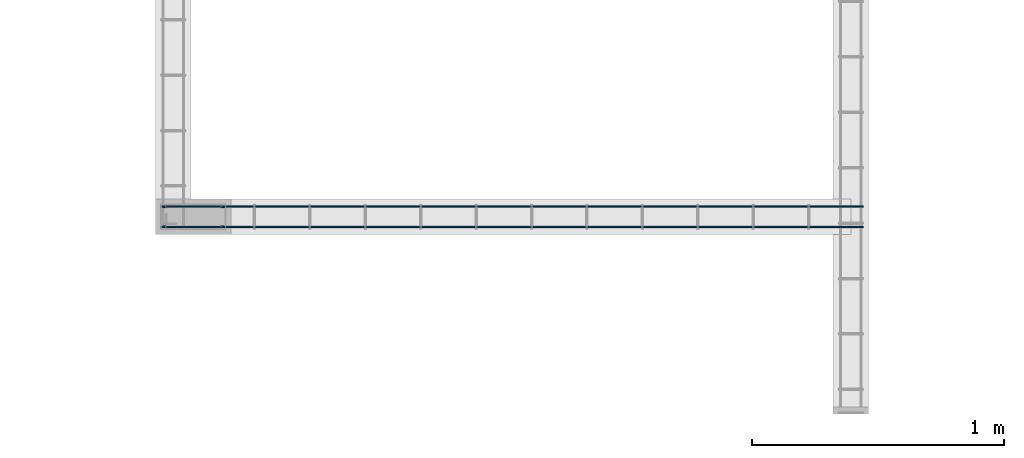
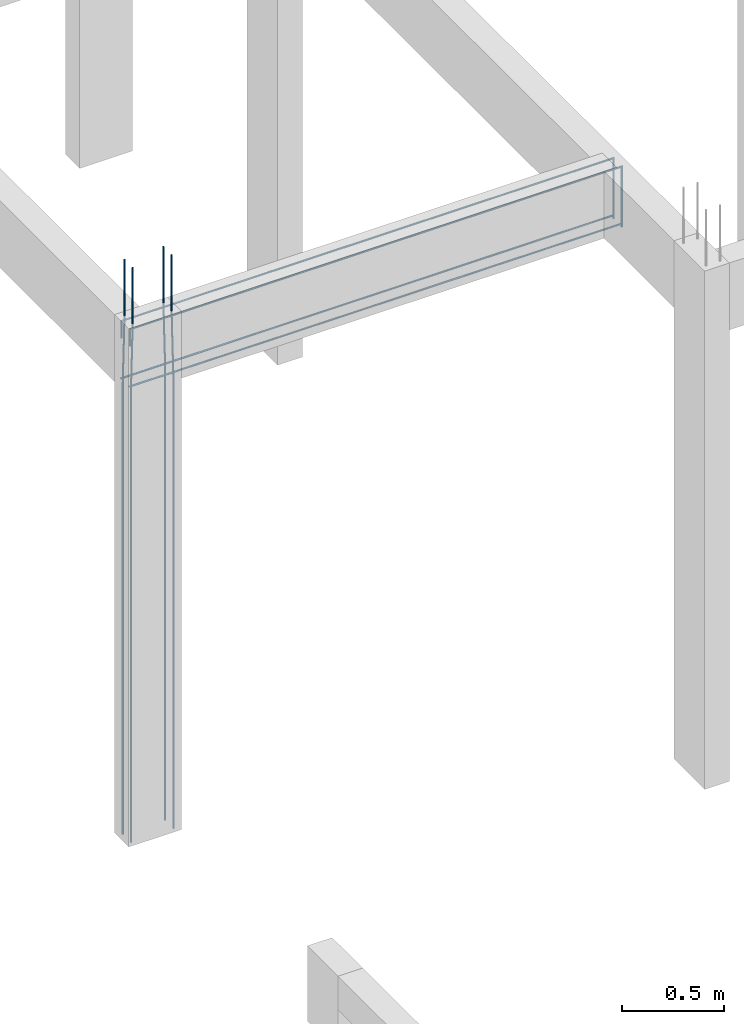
# One storey, part 33 of 236: 8 reinforcing bars.
"""IFC4 building model written with IfcOpenShell, lengths in centimetres."""

from ifc_helpers import new_model, entity, si_unit, derived_unit, frame, origin_with_axes, place, context, project, spatial, element, save


model = new_model("IFC4")

# Units and contexts
model_context = context("Model", 3, precision=1e-05, world=origin_with_axes(), identifier="Body")
ifc_project = project(units=[si_unit("LENGTHUNIT", "METRE", prefix="CENTI"), si_unit("VOLUMEUNIT", "CUBIC_METRE"), si_unit("AREAUNIT", "SQUARE_METRE"), si_unit("POWERUNIT", "WATT"), si_unit("LUMINOUSFLUXUNIT", "LUMEN"), si_unit("ELECTRICCURRENTUNIT", "AMPERE"), si_unit("PRESSUREUNIT", "PASCAL", prefix="KILO"), si_unit("MASSUNIT", "GRAM", prefix="KILO"), si_unit("PLANEANGLEUNIT", "RADIAN"), derived_unit("VOLUMETRICFLOWRATEUNIT", [(si_unit("LENGTHUNIT", "METRE"), 3), (si_unit("TIMEUNIT", "SECOND"), -1)])], contexts=[model_context])

# Site, building, storey
site_placement = place(None, frame((-4000.0, 0.0, 0.0), z_axis=(0.0, 0.0, 1.0), x_axis=(1.0, 0.0, 0.0)))
site = spatial("IfcSite", under=ifc_project, at=site_placement, Name="PADRÃO")
building_placement = place(site_placement, frame((0.0, 0.0, -14.0)))
building = spatial("IfcBuilding", under=site, at=building_placement, Name="CRECHE PRÉ-ESCOLA TIPO 2")
placement_1 = place(building_placement, origin_with_axes())
placement_2 = place(placement_1, frame((0.0, 0.0, 30.0), z_axis=(0.0, 0.0, 1.0), x_axis=(1.0, 0.0, 0.0)))
storey_placement = place(placement_2, frame((0.0, 0.0, 310.0), z_axis=(0.0, 0.0, 1.0), x_axis=(1.0, 0.0, 0.0)))
storey = spatial("IfcBuildingStorey", under=building, at=storey_placement, Name="TERREO", CompositionType="ELEMENT", Elevation=326.0)

# Reinforcing bars
for number, where, z_axis, x_axis, name in (
    (1, (2250.98, 517.52, 33.3573001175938), (0.0, 0.0, 1.0), (1.0, 0.0, 0.0), "P139 - Longitudinal"),
    (2, (2250.98, 509.52, 33.3573001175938), (0.0, 0.0, 1.0), (1.0, 0.0, 0.0), "P139 - Longitudinal"),
):
    element("IfcReinforcingBar", number, at=place(storey_placement, frame(where, z_axis=z_axis, x_axis=x_axis)), inside=storey, Name=name, BarLength=0.0, CrossSectionArea=7.853981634e-05, NominalDiameter=1.0, PredefinedType="MAIN", context=model_context, shape_type="AdvancedSweptSolid", body=[
        entity("IfcSweptDiskSolid", entity("IfcCompositeCurve", [entity("IfcCompositeCurveSegment", "CONTINUOUS", True, entity("IfcPolyline", [entity("IfcCartesianPoint", [-0.5, 0.0, -343.357300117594]), entity("IfcCartesianPoint", [-0.5, 0.0, -73.3573001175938])])), entity("IfcCompositeCurveSegment", "CONTINUOUS", True, entity("IfcPolyline", [entity("IfcCartesianPoint", [-0.5, 0.0, -73.3573001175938]), entity("IfcCartesianPoint", [0.5, 0.0, -33.3573001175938])])), entity("IfcCompositeCurveSegment", "CONTINUOUS", True, entity("IfcPolyline", [entity("IfcCartesianPoint", [0.5, 0.0, -33.3573001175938]), entity("IfcCartesianPoint", [0.5, 0.0, 0.0])]))], False), 0.5),
    ])
for number, where, z_axis, x_axis, name in (
    (3, (2273.98, 509.52, 33.3573001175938), (0.0, 0.0, 1.0), (1.0, 0.0, 0.0), "P139 - Longitudinal"),
    (4, (2273.98, 517.52, 33.3573001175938), (0.0, 0.0, 1.0), (1.0, 0.0, 0.0), "P139 - Longitudinal"),
):
    element("IfcReinforcingBar", number, at=place(storey_placement, frame(where, z_axis=z_axis, x_axis=x_axis)), inside=storey, Name=name, BarLength=0.0, CrossSectionArea=7.853981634e-05, NominalDiameter=1.0, PredefinedType="MAIN", context=model_context, shape_type="AdvancedSweptSolid", body=[
        entity("IfcSweptDiskSolid", entity("IfcCompositeCurve", [entity("IfcCompositeCurveSegment", "CONTINUOUS", True, entity("IfcPolyline", [entity("IfcCartesianPoint", [0.5, 0.0, -343.357300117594]), entity("IfcCartesianPoint", [0.5, 0.0, -73.3573001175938])])), entity("IfcCompositeCurveSegment", "CONTINUOUS", True, entity("IfcPolyline", [entity("IfcCartesianPoint", [0.5, 0.0, -73.3573001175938]), entity("IfcCartesianPoint", [-0.5, 0.0, -33.3573001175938])])), entity("IfcCompositeCurveSegment", "CONTINUOUS", True, entity("IfcPolyline", [entity("IfcCartesianPoint", [-0.5, 0.0, -33.3573001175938]), entity("IfcCartesianPoint", [-0.5, 0.0, 0.0])]))], False), 0.5),
    ])
for number, where, z_axis, x_axis, name in (
    (5, (2388.99, 517.62, -36.7), (0.0, 0.0, 1.0), (1.0, 0.0, 0.0), "V255 - Longitudinal inferior"),
    (6, (2388.99, 509.42, -36.7), (0.0, 0.0, 1.0), (1.0, 0.0, 0.0), "V255 - Longitudinal inferior"),
):
    element("IfcReinforcingBar", number, at=place(storey_placement, frame(where, z_axis=z_axis, x_axis=x_axis)), inside=storey, Name=name, BarLength=0.0, CrossSectionArea=5.0265482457e-05, NominalDiameter=0.8, PredefinedType="MAIN", context=model_context, shape_type="AdvancedSweptSolid", body=[
        entity("IfcSweptDiskSolid", entity("IfcCompositeCurve", [entity("IfcCompositeCurveSegment", "CONTINUOUS", True, entity("IfcPolyline", [entity("IfcCartesianPoint", [-139.51, 0.0, -0.4]), entity("IfcCartesianPoint", [139.51, 0.0, -0.4])]))], False), 0.4),
    ])
for number, where, z_axis, x_axis, name in (
    (7, (2388.99, 517.62, -2.49624973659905), (0.0, 0.0, 1.0), (1.0, 0.0, 0.0), "V255 - Longitudinal superior"),
    (8, (2388.99, 509.42, -2.49624973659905), (0.0, 0.0, 1.0), (1.0, 0.0, 0.0), "V255 - Longitudinal superior"),
):
    element("IfcReinforcingBar", number, at=place(storey_placement, frame(where, z_axis=z_axis, x_axis=x_axis)), inside=storey, Name=name, BarLength=0.0, CrossSectionArea=5.0265482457e-05, NominalDiameter=0.8, PredefinedType="MAIN", context=model_context, shape_type="AdvancedSweptSolid", body=[
        entity("IfcSweptDiskSolid", entity("IfcCompositeCurve", [entity("IfcCompositeCurveSegment", "CONTINUOUS", True, entity("IfcPolyline", [entity("IfcCartesianPoint", [-139.11, 0.0, -10.4037502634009]), entity("IfcCartesianPoint", [-139.11, 0.0, -0.403750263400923])])), entity("IfcCompositeCurveSegment", "CONTINUOUS", True, entity("IfcPolyline", [entity("IfcCartesianPoint", [-139.11, 0.0, -0.403750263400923]), entity("IfcCartesianPoint", [139.11, 0.0, -0.403750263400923])])), entity("IfcCompositeCurveSegment", "CONTINUOUS", True, entity("IfcPolyline", [entity("IfcCartesianPoint", [139.11, 0.0, -0.403750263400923]), entity("IfcCartesianPoint", [139.11, 0.0, -36.4037502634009])]))], False), 0.4),
    ])

save(model, "model.ifc")
